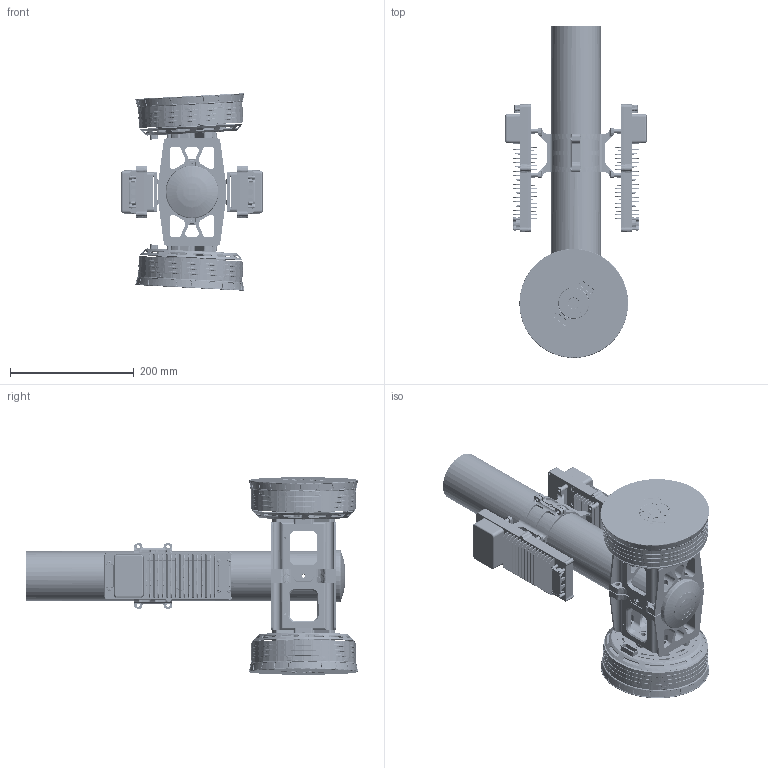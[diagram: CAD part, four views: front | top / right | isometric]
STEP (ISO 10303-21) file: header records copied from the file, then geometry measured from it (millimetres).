
FILE_DESCRIPTION (( 'STEP AP214' ), '1' );
FILE_NAME ('X-A16.STEP', '2026-03-17T07:31:09', ( '' ), ( '' ), 'SwSTEP 2.0', 'SolidWorks 2022', '' );
FILE_SCHEMA (( 'AUTOMOTIVE_DESIGN' ));
Length unit declared in the file: millimetre
Products named in the file (1): X-A16
Bounding box: 227.5 x 535.32 x 318.66 mm (x, y, z)
Volume: 4210704.5 mm3; surface area: 1223181.3 mm2
Topology: 33 solids, 61 shells, 9984 faces, 24888 edges, 15050 vertices
Faces by surface type: cylinder 4334, bspline 2643, plane 2153, cone 798, torus 56
Entity records: 470047 total; most frequent: CARTESIAN_POINT 176474, ORIENTED_EDGE 49552, DIRECTION 40902, EDGE_CURVE 24776, AXIS2_PLACEMENT_3D 15393, VERTEX_POINT 15050, EDGE_LOOP 10646, VECTOR 10116
